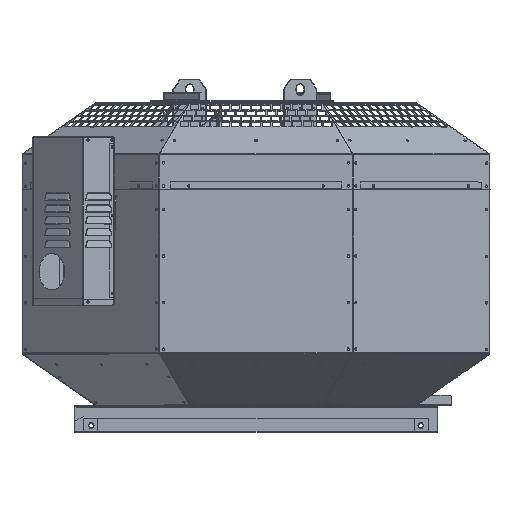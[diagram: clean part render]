
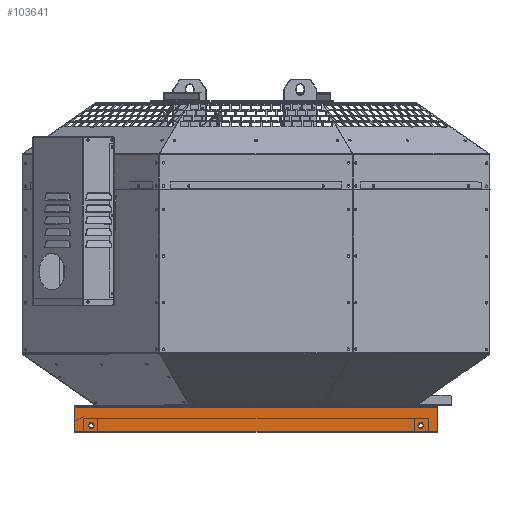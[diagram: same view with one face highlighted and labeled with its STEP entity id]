
A CAD part, top view. The second image highlights one B-rep face of the part: STEP entity #103641.
In plain terms, the highlighted planar face has unit normal (0, 0, 1).
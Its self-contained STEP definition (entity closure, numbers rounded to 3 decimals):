
#762 = DIRECTION ( 'NONE',  ( 0., 0., 1. ) ) ;
#1479 = DIRECTION ( 'NONE',  ( 0., 0., 1. ) ) ;
#3043 = EDGE_LOOP ( 'NONE', ( #16466, #37448 ) ) ;
#7582 = AXIS2_PLACEMENT_3D ( 'NONE', #22727, #101218, #34032 ) ;
#11498 = VECTOR ( 'NONE', #66672, 1000. ) ;
#12596 = CIRCLE ( 'NONE', #98906, 4.5 ) ;
#14770 = DIRECTION ( 'NONE',  ( -1., 0., 0. ) ) ;
#15163 = ORIENTED_EDGE ( 'NONE', *, *, #45896, .F. ) ;
#16103 = EDGE_CURVE ( 'NONE', #44725, #62160, #127184, .T. ) ;
#16466 = ORIENTED_EDGE ( 'NONE', *, *, #17558, .F. ) ;
#17558 = EDGE_CURVE ( 'NONE', #83424, #32858, #68802, .T. ) ;
#18857 = EDGE_CURVE ( 'NONE', #116466, #144915, #61327, .T. ) ;
#20919 = CARTESIAN_POINT ( 'NONE',  ( -309.05, 17.6, 301.1 ) ) ;
#21157 = FACE_BOUND ( 'NONE', #3043, .T. ) ;
#21698 = VERTEX_POINT ( 'NONE', #78089 ) ;
#22727 = CARTESIAN_POINT ( 'NONE',  ( 283., -13.2, 301.1 ) ) ;
#23926 = CARTESIAN_POINT ( 'NONE',  ( -312.45, 17.6, 301.1 ) ) ;
#24405 = DIRECTION ( 'NONE',  ( 0., -1., 0. ) ) ;
#24804 = LINE ( 'NONE', #117761, #81033 ) ;
#26217 = AXIS2_PLACEMENT_3D ( 'NONE', #68726, #1479, #80002 ) ;
#27561 = EDGE_CURVE ( 'NONE', #32858, #83424, #86120, .T. ) ;
#32858 = VERTEX_POINT ( 'NONE', #69674 ) ;
#34032 = DIRECTION ( 'NONE',  ( 0., -1., 0. ) ) ;
#35511 = VERTEX_POINT ( 'NONE', #144486 ) ;
#35636 = ORIENTED_EDGE ( 'NONE', *, *, #64876, .F. ) ;
#37051 = ORIENTED_EDGE ( 'NONE', *, *, #132542, .T. ) ;
#37448 = ORIENTED_EDGE ( 'NONE', *, *, #27561, .F. ) ;
#39596 = DIRECTION ( 'NONE',  ( 0., -1., 0. ) ) ;
#39983 = CARTESIAN_POINT ( 'NONE',  ( -283., -13.2, 301.1 ) ) ;
#40585 = EDGE_CURVE ( 'NONE', #62160, #140074, #93928, .T. ) ;
#41511 = ORIENTED_EDGE ( 'NONE', *, *, #16103, .F. ) ;
#43659 = DIRECTION ( 'NONE',  ( 0., 0., 1. ) ) ;
#44725 = VERTEX_POINT ( 'NONE', #57256 ) ;
#45896 = EDGE_CURVE ( 'NONE', #35511, #21698, #108206, .T. ) ;
#50990 = LINE ( 'NONE', #73661, #70292 ) ;
#51265 = DIRECTION ( 'NONE',  ( 0., -1., 0. ) ) ;
#51813 = LINE ( 'NONE', #82011, #78161 ) ;
#53689 = AXIS2_PLACEMENT_3D ( 'NONE', #68029, #762, #79295 ) ;
#55119 = EDGE_CURVE ( 'NONE', #44725, #70109, #51813, .T. ) ;
#57256 = CARTESIAN_POINT ( 'NONE',  ( 309.05, 17.6, 301.1 ) ) ;
#61327 = LINE ( 'NONE', #23926, #91123 ) ;
#62160 = VERTEX_POINT ( 'NONE', #122367 ) ;
#63267 = CARTESIAN_POINT ( 'NONE',  ( 283., -13.2, 301.1 ) ) ;
#64876 = EDGE_CURVE ( 'NONE', #21698, #35511, #12596, .T. ) ;
#65716 = CARTESIAN_POINT ( 'NONE',  ( -312.45, -21., 301.1 ) ) ;
#66284 = ORIENTED_EDGE ( 'NONE', *, *, #55119, .T. ) ;
#66672 = DIRECTION ( 'NONE',  ( 0., -1., 0. ) ) ;
#68029 = CARTESIAN_POINT ( 'NONE',  ( 309.45, -21., 301.1 ) ) ;
#68726 = CARTESIAN_POINT ( 'NONE',  ( -309.45, -21., 301.1 ) ) ;
#68802 = CIRCLE ( 'NONE', #86307, 4.5 ) ;
#69252 = AXIS2_PLACEMENT_3D ( 'NONE', #73001, #106780, #39596 ) ;
#69338 = CARTESIAN_POINT ( 'NONE',  ( -283., -17.7, 301.1 ) ) ;
#69674 = CARTESIAN_POINT ( 'NONE',  ( -283., -8.7, 301.1 ) ) ;
#70036 = VERTEX_POINT ( 'NONE', #109219 ) ;
#70109 = VERTEX_POINT ( 'NONE', #20919 ) ;
#70292 = VECTOR ( 'NONE', #98183, 1000. ) ;
#70834 = DIRECTION ( 'NONE',  ( 1., 0., 0. ) ) ;
#73001 = CARTESIAN_POINT ( 'NONE',  ( -294.55, 19.5, 301.1 ) ) ;
#73661 = CARTESIAN_POINT ( 'NONE',  ( -294.55, -24., 301.1 ) ) ;
#74563 = DIRECTION ( 'NONE',  ( 0., -1., 0. ) ) ;
#77728 = EDGE_CURVE ( 'NONE', #70109, #116466, #24804, .T. ) ;
#78089 = CARTESIAN_POINT ( 'NONE',  ( 283., -17.7, 301.1 ) ) ;
#78139 = CIRCLE ( 'NONE', #53689, 3. ) ;
#78161 = VECTOR ( 'NONE', #14770, 1000. ) ;
#79295 = DIRECTION ( 'NONE',  ( 0., -1., 0. ) ) ;
#80002 = DIRECTION ( 'NONE',  ( 0., -1., 0. ) ) ;
#80874 = FACE_BOUND ( 'NONE', #113488, .T. ) ;
#81033 = VECTOR ( 'NONE', #129061, 1000. ) ;
#82011 = CARTESIAN_POINT ( 'NONE',  ( -294.55, 17.6, 301.1 ) ) ;
#82858 = AXIS2_PLACEMENT_3D ( 'NONE', #110864, #43659, #122170 ) ;
#83424 = VERTEX_POINT ( 'NONE', #69338 ) ;
#86120 = CIRCLE ( 'NONE', #82858, 4.5 ) ;
#86253 = VERTEX_POINT ( 'NONE', #122842 ) ;
#86307 = AXIS2_PLACEMENT_3D ( 'NONE', #39983, #118484, #51265 ) ;
#91123 = VECTOR ( 'NONE', #24405, 1000. ) ;
#93928 = LINE ( 'NONE', #122600, #11498 ) ;
#98183 = DIRECTION ( 'NONE',  ( -1., 0., 0. ) ) ;
#98906 = AXIS2_PLACEMENT_3D ( 'NONE', #63267, #141807, #74563 ) ;
#100813 = VECTOR ( 'NONE', #70834, 1000. ) ;
#101218 = DIRECTION ( 'NONE',  ( 0., 0., 1. ) ) ;
#101368 = ORIENTED_EDGE ( 'NONE', *, *, #40585, .F. ) ;
#103641 = ADVANCED_FACE ( 'NONE', ( #80874, #21157, #137048 ), #140227, .T. ) ;
#106780 = DIRECTION ( 'NONE',  ( 0., 0., 1. ) ) ;
#107178 = CARTESIAN_POINT ( 'NONE',  ( 312.45, -21., 301.1 ) ) ;
#108206 = CIRCLE ( 'NONE', #7582, 4.5 ) ;
#109219 = CARTESIAN_POINT ( 'NONE',  ( 309.45, -24., 301.1 ) ) ;
#110864 = CARTESIAN_POINT ( 'NONE',  ( -283., -13.2, 301.1 ) ) ;
#113488 = EDGE_LOOP ( 'NONE', ( #35636, #15163 ) ) ;
#113859 = ORIENTED_EDGE ( 'NONE', *, *, #77728, .T. ) ;
#116466 = VERTEX_POINT ( 'NONE', #126251 ) ;
#117761 = CARTESIAN_POINT ( 'NONE',  ( -294.55, 17.6, 301.1 ) ) ;
#118484 = DIRECTION ( 'NONE',  ( 0., 0., 1. ) ) ;
#122170 = DIRECTION ( 'NONE',  ( 0., -1., 0. ) ) ;
#122367 = CARTESIAN_POINT ( 'NONE',  ( 312.45, 17.6, 301.1 ) ) ;
#122600 = CARTESIAN_POINT ( 'NONE',  ( 312.45, 17.6, 301.1 ) ) ;
#122842 = CARTESIAN_POINT ( 'NONE',  ( -309.45, -24., 301.1 ) ) ;
#123987 = ORIENTED_EDGE ( 'NONE', *, *, #138889, .F. ) ;
#125876 = EDGE_CURVE ( 'NONE', #144915, #86253, #141970, .T. ) ;
#126251 = CARTESIAN_POINT ( 'NONE',  ( -312.45, 17.6, 301.1 ) ) ;
#127184 = LINE ( 'NONE', #138058, #100813 ) ;
#129061 = DIRECTION ( 'NONE',  ( -1., 0., 0. ) ) ;
#132542 = EDGE_CURVE ( 'NONE', #70036, #140074, #78139, .T. ) ;
#136846 = EDGE_LOOP ( 'NONE', ( #140902, #137558, #123987, #37051, #101368, #41511, #66284, #113859 ) ) ;
#137048 = FACE_OUTER_BOUND ( 'NONE', #136846, .T. ) ;
#137558 = ORIENTED_EDGE ( 'NONE', *, *, #125876, .T. ) ;
#138058 = CARTESIAN_POINT ( 'NONE',  ( 294.55, 17.6, 301.1 ) ) ;
#138889 = EDGE_CURVE ( 'NONE', #70036, #86253, #50990, .T. ) ;
#140074 = VERTEX_POINT ( 'NONE', #107178 ) ;
#140227 = PLANE ( 'NONE',  #69252 ) ;
#140902 = ORIENTED_EDGE ( 'NONE', *, *, #18857, .T. ) ;
#141807 = DIRECTION ( 'NONE',  ( 0., 0., 1. ) ) ;
#141970 = CIRCLE ( 'NONE', #26217, 3. ) ;
#144486 = CARTESIAN_POINT ( 'NONE',  ( 283., -8.7, 301.1 ) ) ;
#144915 = VERTEX_POINT ( 'NONE', #65716 ) ;
